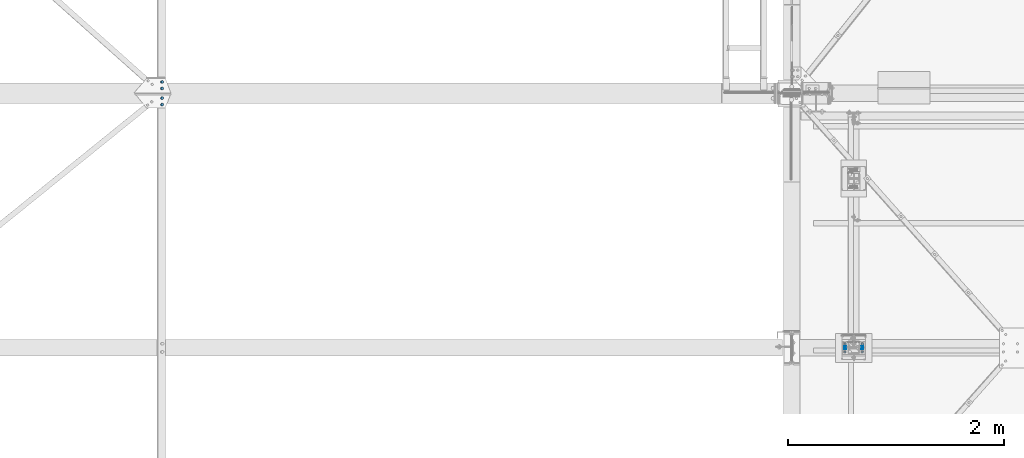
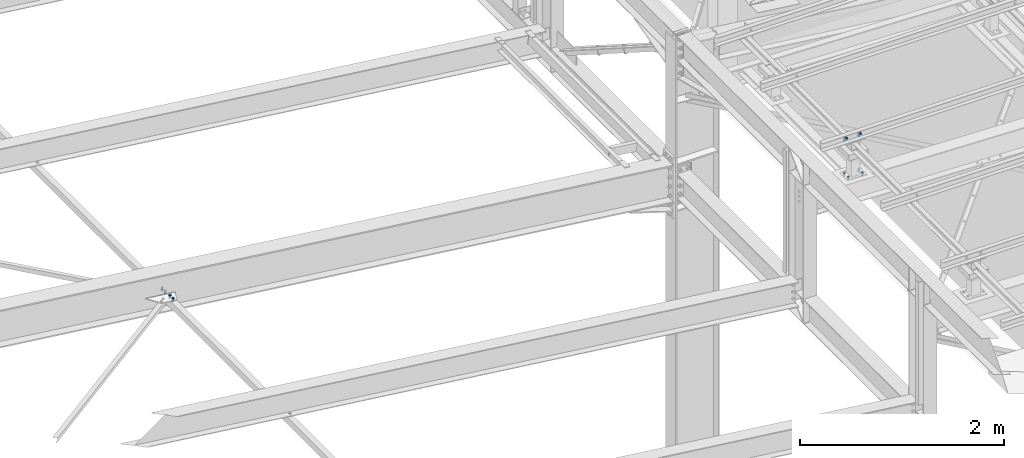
# One storey, part 354 of 3134: 5 mechanical fasteners, 3 elements without a shape of their own.
"""IFC2X3 building model written with IfcOpenShell, lengths in millimetres."""

from ifc_helpers import new_model, si_unit, frame, origin_with_axes, place, context, subcontext, project, spatial, faceted_brep, source, transform, mapped, material, type_object, element, aggregate, save


model = new_model("IFC2X3")

# Units and contexts
model_context = context("Model", 3, precision=1e-05, world=origin_with_axes())
body_context = subcontext(model_context, "Body", "Model", "MODEL_VIEW")
ifc_project = project(units=[si_unit("LENGTHUNIT", "METRE", prefix="MILLI"), si_unit("AREAUNIT", "SQUARE_METRE"), si_unit("VOLUMEUNIT", "CUBIC_METRE"), si_unit("MASSUNIT", "GRAM", prefix="KILO"), si_unit("TIMEUNIT", "SECOND"), si_unit("PLANEANGLEUNIT", "RADIAN"), si_unit("SOLIDANGLEUNIT", "STERADIAN"), si_unit("THERMODYNAMICTEMPERATUREUNIT", "DEGREE_CELSIUS"), si_unit("LUMINOUSINTENSITYUNIT", "LUMEN")], contexts=[model_context])

# Site, building, storey
site_placement = place(None, origin_with_axes())
site = spatial("IfcSite", under=ifc_project, at=site_placement, CompositionType="ELEMENT")
building_placement = place(site_placement, origin_with_axes())
building = spatial("IfcBuilding", under=site, at=building_placement, Name="Undefined", CompositionType="ELEMENT")
storey_placement = place(building_placement, origin_with_axes())
storey = spatial("IfcBuildingStorey", under=building, at=storey_placement, Name="Undefined", CompositionType="ELEMENT", Elevation=0.0)

# Assembly, mechanical fastener
assembly_1_placement = place(storey_placement, origin_with_axes())
assembly_1 = element("IfcElementAssembly", 1, at=assembly_1_placement, inside=storey, AssemblyPlace="NOTDEFINED", PredefinedType="RIGID_FRAME")
ifc_material = material(Name="8.8")
mechanical_fastener_type = type_object("IfcMechanicalFastenerType", Name="Bolt assembly")
shared_shape_1 = source(origin_with_axes(), body_context, "Body", "Brep", [
    faceted_brep([(10.9696551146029, -14.0, 0.0), (5.48482755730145, -14.0, 9.5), (-5.48482755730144, -14.0, 9.5), (-10.9696551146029, -14.0, 1.34339530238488e-15), (-5.48482755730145, -14.0, -9.5), (5.48482755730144, -14.0, -9.50000000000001), (5.48482755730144, -6.0, -9.50000000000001), (-5.48482755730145, -6.0, -9.5), (-10.9696551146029, -6.0, 1.34339530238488e-15), (-5.48482755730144, -6.0, 9.5), (5.48482755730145, -6.0, 9.5), (10.9696551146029, -6.0, 0.0), (6.0, -6.0, 0.0), (5.19615242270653, -6.0, 3.00000000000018), (2.99999999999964, -6.0, 5.19615242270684), (-6.21801588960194e-13, -6.0, 6.0), (-3.00000000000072, -6.0, 5.19615242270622), (-5.19615242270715, -6.0, 2.9999999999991), (-6.0, -6.0, -1.24360317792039e-12), (-5.19615242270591, -6.0, -3.00000000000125), (-2.99999999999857, -6.0, -5.19615242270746), (1.85874342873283e-12, -6.0, -6.0), (3.00000000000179, -6.0, -5.1961524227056), (5.19615242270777, -6.0, -2.99999999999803), (5.19615242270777, 24.0, -2.99999999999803), (3.00000000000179, 24.0, -5.1961524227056), (1.85874342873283e-12, 24.0, -6.0), (-2.99999999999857, 24.0, -5.19615242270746), (-5.19615242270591, 24.0, -3.00000000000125), (-6.0, 24.0, -1.24360317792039e-12), (-5.19615242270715, 24.0, 2.9999999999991), (-3.00000000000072, 24.0, 5.19615242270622), (-6.21801588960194e-13, 24.0, 6.0), (2.99999999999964, 24.0, 5.19615242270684), (5.19615242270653, 24.0, 3.00000000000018), (6.0, 24.0, 0.0), (10.9696551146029, 6.00000000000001, 0.0), (5.48482755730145, 6.00000000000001, 9.5), (-5.48482755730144, 6.00000000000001, 9.5), (-10.9696551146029, 6.00000000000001, 1.34339530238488e-15), (-5.48482755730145, 6.00000000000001, -9.5), (5.48482755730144, 6.00000000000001, -9.50000000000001), (5.48482755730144, 16.0, -9.50000000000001), (-5.48482755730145, 16.0, -9.5), (-10.9696551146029, 16.0, 1.34339530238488e-15), (-5.48482755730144, 16.0, 9.5), (5.48482755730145, 16.0, 9.5), (10.9696551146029, 16.0, 0.0)], [[[0, 1, 2, 3, 4, 5]], [[6, 7, 8, 9, 10, 11]], [[0, 11, 10, 1]], [[1, 10, 9, 2]], [[2, 9, 8, 3]], [[3, 8, 7, 4]], [[4, 7, 6, 5]], [[5, 6, 11, 0]], [[12, 13, 14, 15, 16, 17, 18, 19, 20, 21, 22, 23]], [[24, 25, 26, 27, 28, 29, 30, 31, 32, 33, 34, 35]], [[12, 35, 34, 13]], [[13, 34, 33, 14]], [[14, 33, 32, 15]], [[15, 32, 31, 16]], [[16, 31, 30, 17]], [[17, 30, 29, 18]], [[18, 29, 28, 19]], [[19, 28, 27, 20]], [[20, 27, 26, 21]], [[21, 26, 25, 22]], [[22, 25, 24, 23]], [[23, 24, 35, 12]], [[36, 37, 38, 39, 40, 41]], [[42, 43, 44, 45, 46, 47]], [[36, 47, 46, 37]], [[37, 46, 45, 38]], [[38, 45, 44, 39]], [[39, 44, 43, 40]], [[40, 43, 42, 41]], [[41, 42, 47, 36]]]),
    faceted_brep([(7.0, -0.1, 0.0), (6.06217782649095, -0.1, 3.50000000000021), (3.49999999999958, -0.1, 6.06217782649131), (-7.25435187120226e-13, -0.1, 7.0), (-3.50000000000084, -0.1, 6.06217782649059), (-6.06217782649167, -0.1, 3.49999999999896), (-7.0, -0.1, -1.45087037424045e-12), (-6.06217782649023, -0.1, -3.50000000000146), (-3.49999999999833, -0.1, -6.06217782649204), (2.1685340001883e-12, -0.1, -7.0), (3.50000000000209, -0.1, -6.06217782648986), (6.0621778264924, -0.1, -3.4999999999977), (6.0621778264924, 6.00000000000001, -3.4999999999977), (3.50000000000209, 6.00000000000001, -6.06217782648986), (2.1685340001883e-12, 6.00000000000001, -7.0), (-3.49999999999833, 6.00000000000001, -6.06217782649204), (-6.06217782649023, 6.00000000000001, -3.50000000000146), (-7.0, 6.00000000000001, -1.45087037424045e-12), (-6.06217782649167, 6.00000000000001, 3.49999999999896), (-3.50000000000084, 6.00000000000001, 6.06217782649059), (-7.25435187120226e-13, 6.00000000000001, 7.0), (3.49999999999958, 6.00000000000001, 6.06217782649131), (6.06217782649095, 6.00000000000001, 3.50000000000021), (7.0, 6.00000000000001, 0.0), (7.0, -5.9, 0.0), (6.06217782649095, -5.9, 3.50000000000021), (3.49999999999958, -5.9, 6.06217782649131), (-7.25435187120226e-13, -5.9, 7.0), (-3.50000000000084, -5.9, 6.06217782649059), (-6.06217782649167, -5.9, 3.49999999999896), (-7.0, -5.9, -1.45087037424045e-12), (-6.06217782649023, -5.9, -3.50000000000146), (-3.49999999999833, -5.9, -6.06217782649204), (2.1685340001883e-12, -5.9, -7.0), (3.50000000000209, -5.9, -6.06217782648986), (6.0621778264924, -5.9, -3.4999999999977), (6.0621778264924, 0.0999999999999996, -3.4999999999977), (3.50000000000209, 0.0999999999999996, -6.06217782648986), (2.1685340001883e-12, 0.0999999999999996, -7.0), (-3.49999999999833, 0.0999999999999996, -6.06217782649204), (-6.06217782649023, 0.0999999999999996, -3.50000000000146), (-7.0, 0.0999999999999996, -1.45087037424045e-12), (-6.06217782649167, 0.0999999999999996, 3.49999999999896), (-3.50000000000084, 0.0999999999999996, 6.06217782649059), (-7.25435187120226e-13, 0.0999999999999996, 7.0), (3.49999999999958, 0.0999999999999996, 6.06217782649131), (6.06217782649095, 0.0999999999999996, 3.50000000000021), (7.0, 0.0999999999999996, 0.0)], [[[0, 1, 2, 3, 4, 5, 6, 7, 8, 9, 10, 11]], [[12, 13, 14, 15, 16, 17, 18, 19, 20, 21, 22, 23]], [[0, 23, 22, 1]], [[1, 22, 21, 2]], [[2, 21, 20, 3]], [[3, 20, 19, 4]], [[4, 19, 18, 5]], [[5, 18, 17, 6]], [[6, 17, 16, 7]], [[7, 16, 15, 8]], [[8, 15, 14, 9]], [[9, 14, 13, 10]], [[10, 13, 12, 11]], [[11, 12, 23, 0]], [[24, 25, 26, 27, 28, 29, 30, 31, 32, 33, 34, 35]], [[36, 37, 38, 39, 40, 41, 42, 43, 44, 45, 46, 47]], [[24, 47, 46, 25]], [[25, 46, 45, 26]], [[26, 45, 44, 27]], [[27, 44, 43, 28]], [[28, 43, 42, 29]], [[29, 42, 41, 30]], [[30, 41, 40, 31]], [[31, 40, 39, 32]], [[32, 39, 38, 33]], [[33, 38, 37, 34]], [[34, 37, 36, 35]], [[35, 36, 47, 24]]]),
])
mechanical_fastener_1_placement = place(assembly_1_placement, frame((68125.0, 17125.0, 5850.0), z_axis=(1.0, 0.0, 0.0), x_axis=(0.0, -1.0, 0.0)))
mechanical_fastener_1 = element("IfcMechanicalFastener", 2, at=mechanical_fastener_1_placement, type_object=mechanical_fastener_type, material=ifc_material, Name="Bolt assembly", NominalDiameter=12.0, NominalLength=30.0, context=body_context, shape_type="MappedRepresentation", body=[
    mapped(shared_shape_1, transform((0.0, -5.32963895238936e-10, -79.9999999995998))),
    mapped(shared_shape_1, transform((0.0, 5.3114490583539e-10, 79.9999999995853))),
])

# Assembly, mechanical fasteners
assembly_2_placement = place(storey_placement, origin_with_axes())
assembly_2 = element("IfcElementAssembly", 3, at=assembly_2_placement, inside=storey, Name="IPE450", AssemblyPlace="NOTDEFINED", PredefinedType="RIGID_FRAME")
shared_shape_2 = source(origin_with_axes(), body_context, "Body", "Brep", [
    faceted_brep([(13.856406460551, -10.0, 0.0), (6.92820323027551, -10.0, 12.0), (-6.92820323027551, -10.0, 12.0), (-13.856406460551, -10.0, 1.69692038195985e-15), (-6.92820323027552, -10.0, -12.0), (6.9282032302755, -10.0, -12.0), (6.9282032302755, 0.0, -12.0), (-6.92820323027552, 0.0, -12.0), (-13.856406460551, 0.0, 1.69692038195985e-15), (-6.92820323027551, 0.0, 12.0), (6.92820323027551, 0.0, 12.0), (13.856406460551, 0.0, 0.0), (8.0, 0.0, 0.0), (6.92820323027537, 0.0, 4.00000000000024), (3.99999999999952, 0.0, 6.92820323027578), (-8.29068785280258e-13, 0.0, 8.0), (-4.00000000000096, 0.0, 6.92820323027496), (-6.9282032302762, 0.0, 3.99999999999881), (-8.0, 0.0, -1.65813757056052e-12), (-6.92820323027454, 0.0, -4.00000000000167), (-3.99999999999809, 0.0, -6.92820323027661), (2.47832457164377e-12, 0.0, -8.0), (4.00000000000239, 0.0, -6.92820323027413), (6.92820323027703, 0.0, -3.99999999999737), (6.92820323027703, 35.0000000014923, -3.99999999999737), (4.00000000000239, 35.0000000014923, -6.92820323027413), (2.47832457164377e-12, 35.0000000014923, -8.0), (-3.99999999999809, 35.0000000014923, -6.92820323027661), (-6.92820323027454, 35.0000000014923, -4.00000000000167), (-8.0, 35.0000000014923, -1.65813757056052e-12), (-6.9282032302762, 35.0000000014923, 3.99999999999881), (-4.00000000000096, 35.0000000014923, 6.92820323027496), (-8.29068785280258e-13, 35.0000000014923, 8.0), (3.99999999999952, 35.0000000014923, 6.92820323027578), (6.92820323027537, 35.0000000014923, 4.00000000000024), (8.0, 35.0000000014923, 0.0), (13.856406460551, 14.9999995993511, 0.0), (6.92820323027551, 14.9999995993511, 12.0), (-6.92820323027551, 14.9999995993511, 12.0), (-13.856406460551, 14.9999995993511, 1.69692038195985e-15), (-6.92820323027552, 14.9999995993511, -12.0), (6.9282032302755, 14.9999995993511, -12.0), (6.9282032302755, 27.9999995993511, -12.0), (-6.92820323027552, 27.9999995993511, -12.0), (-13.856406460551, 27.9999995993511, 1.69692038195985e-15), (-6.92820323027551, 27.9999995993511, 12.0), (6.92820323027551, 27.9999995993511, 12.0), (13.856406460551, 27.9999995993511, 0.0)], [[[0, 1, 2, 3, 4, 5]], [[6, 7, 8, 9, 10, 11]], [[0, 11, 10, 1]], [[1, 10, 9, 2]], [[2, 9, 8, 3]], [[3, 8, 7, 4]], [[4, 7, 6, 5]], [[5, 6, 11, 0]], [[12, 13, 14, 15, 16, 17, 18, 19, 20, 21, 22, 23]], [[24, 25, 26, 27, 28, 29, 30, 31, 32, 33, 34, 35]], [[12, 35, 34, 13]], [[13, 34, 33, 14]], [[14, 33, 32, 15]], [[15, 32, 31, 16]], [[16, 31, 30, 17]], [[17, 30, 29, 18]], [[18, 29, 28, 19]], [[19, 28, 27, 20]], [[20, 27, 26, 21]], [[21, 26, 25, 22]], [[22, 25, 24, 23]], [[23, 24, 35, 12]], [[36, 37, 38, 39, 40, 41]], [[42, 43, 44, 45, 46, 47]], [[36, 47, 46, 37]], [[37, 46, 45, 38]], [[38, 45, 44, 39]], [[39, 44, 43, 40]], [[40, 43, 42, 41]], [[41, 42, 47, 36]]]),
    faceted_brep([(9.0, 7.9, 0.0), (7.79422863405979, 7.9, 4.50000000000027), (4.49999999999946, 7.9, 7.79422863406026), (-9.3270238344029e-13, 7.9, 9.0), (-4.50000000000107, 7.9, 7.79422863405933), (-7.79422863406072, 7.9, 4.49999999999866), (-9.0, 7.9, -1.86540476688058e-12), (-7.79422863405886, 7.9, -4.50000000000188), (-4.49999999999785, 7.9, -7.79422863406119), (2.78811514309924e-12, 7.9, -9.0), (4.50000000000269, 7.9, -7.7942286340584), (7.79422863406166, 7.9, -4.49999999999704), (7.79422863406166, 14.9999995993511, -4.49999999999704), (4.50000000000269, 14.9999995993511, -7.7942286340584), (2.78811514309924e-12, 14.9999995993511, -9.0), (-4.49999999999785, 14.9999995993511, -7.79422863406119), (-7.79422863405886, 14.9999995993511, -4.50000000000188), (-9.0, 14.9999995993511, -1.86540476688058e-12), (-7.79422863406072, 14.9999995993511, 4.49999999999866), (-4.50000000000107, 14.9999995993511, 7.79422863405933), (-9.3270238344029e-13, 14.9999995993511, 9.0), (4.49999999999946, 14.9999995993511, 7.79422863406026), (7.79422863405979, 14.9999995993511, 4.50000000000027), (9.0, 14.9999995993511, 0.0), (9.0, 0.100000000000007, 0.0), (7.79422863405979, 0.100000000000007, 4.50000000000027), (4.49999999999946, 0.100000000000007, 7.79422863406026), (-9.3270238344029e-13, 0.100000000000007, 9.0), (-4.50000000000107, 0.100000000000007, 7.79422863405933), (-7.79422863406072, 0.100000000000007, 4.49999999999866), (-9.0, 0.100000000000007, -1.86540476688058e-12), (-7.79422863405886, 0.100000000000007, -4.50000000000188), (-4.49999999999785, 0.100000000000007, -7.79422863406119), (2.78811514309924e-12, 0.100000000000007, -9.0), (4.50000000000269, 0.100000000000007, -7.7942286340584), (7.79422863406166, 0.100000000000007, -4.49999999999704), (7.79422863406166, 8.1, -4.49999999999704), (4.50000000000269, 8.1, -7.7942286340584), (2.78811514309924e-12, 8.1, -9.0), (-4.49999999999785, 8.1, -7.79422863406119), (-7.79422863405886, 8.1, -4.50000000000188), (-9.0, 8.1, -1.86540476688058e-12), (-7.79422863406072, 8.1, 4.49999999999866), (-4.50000000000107, 8.1, 7.79422863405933), (-9.3270238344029e-13, 8.1, 9.0), (4.49999999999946, 8.1, 7.79422863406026), (7.79422863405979, 8.1, 4.50000000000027), (9.0, 8.1, 0.0)], [[[0, 1, 2, 3, 4, 5, 6, 7, 8, 9, 10, 11]], [[12, 13, 14, 15, 16, 17, 18, 19, 20, 21, 22, 23]], [[0, 23, 22, 1]], [[1, 22, 21, 2]], [[2, 21, 20, 3]], [[3, 20, 19, 4]], [[4, 19, 18, 5]], [[5, 18, 17, 6]], [[6, 17, 16, 7]], [[7, 16, 15, 8]], [[8, 15, 14, 9]], [[9, 14, 13, 10]], [[10, 13, 12, 11]], [[11, 12, 23, 0]], [[24, 25, 26, 27, 28, 29, 30, 31, 32, 33, 34, 35]], [[36, 37, 38, 39, 40, 41, 42, 43, 44, 45, 46, 47]], [[24, 47, 46, 25]], [[25, 46, 45, 26]], [[26, 45, 44, 27]], [[27, 44, 43, 28]], [[28, 43, 42, 29]], [[29, 42, 41, 30]], [[30, 41, 40, 31]], [[31, 40, 39, 32]], [[32, 39, 38, 33]], [[33, 38, 37, 34]], [[34, 37, 36, 35]], [[35, 36, 47, 24]]]),
])
mechanical_fastener_2_placement = place(assembly_2_placement, frame((61712.9849611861, 19495.0, 4806.73358922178), z_axis=(-0.992623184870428, 0.0, 0.121240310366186), x_axis=(0.0, 1.0, 0.0)))
mechanical_fastener_2 = element("IfcMechanicalFastener", 4, at=mechanical_fastener_2_placement, type_object=mechanical_fastener_type, material=ifc_material, Name="Bolt assembly", NominalDiameter=16.0, NominalLength=35.0, context=body_context, shape_type="MappedRepresentation", body=[
    mapped(shared_shape_2, transform((0.0, 0.0, 0.0))),
    mapped(shared_shape_2, transform((59.9999999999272, 0.0, 5.40239852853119e-10))),
])
mechanical_fastener_3_placement = place(assembly_2_placement, frame((61712.9849611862, 19405.0, 4806.73358922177), z_axis=(0.992623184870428, 0.0, -0.121240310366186), x_axis=(0.0, -1.0, 0.0)))
mechanical_fastener_3 = element("IfcMechanicalFastener", 5, at=mechanical_fastener_3_placement, type_object=mechanical_fastener_type, material=ifc_material, Name="Bolt assembly", NominalDiameter=16.0, NominalLength=35.0, context=body_context, shape_type="MappedRepresentation", body=[
    mapped(shared_shape_2, transform((0.0, 0.0, 0.0))),
    mapped(shared_shape_2, transform((59.9999999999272, 0.0, 5.40239852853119e-10))),
])
aggregate(assembly_2, [mechanical_fastener_2, mechanical_fastener_3])

# Mechanical fastener
shared_shape_3 = source(origin_with_axes(), body_context, "Body", "Brep", [
    faceted_brep([(10.9696551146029, -12.0, 0.0), (5.48482755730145, -12.0, 9.5), (-5.48482755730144, -12.0, 9.5), (-10.9696551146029, -12.0, 1.34339530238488e-15), (-5.48482755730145, -12.0, -9.5), (5.48482755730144, -12.0, -9.50000000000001), (5.48482755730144, -4.0, -9.50000000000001), (-5.48482755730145, -4.0, -9.5), (-10.9696551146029, -4.0, 1.34339530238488e-15), (-5.48482755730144, -4.0, 9.5), (5.48482755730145, -4.0, 9.5), (10.9696551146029, -4.0, 0.0), (6.0, -4.0, 0.0), (5.19615242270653, -4.0, 3.00000000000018), (2.99999999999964, -4.0, 5.19615242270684), (-6.21801588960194e-13, -4.0, 6.0), (-3.00000000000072, -4.0, 5.19615242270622), (-5.19615242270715, -4.0, 2.9999999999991), (-6.0, -4.0, -1.24360317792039e-12), (-5.19615242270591, -4.0, -3.00000000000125), (-2.99999999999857, -4.0, -5.19615242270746), (1.85874342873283e-12, -4.0, -6.0), (3.00000000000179, -4.0, -5.1961524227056), (5.19615242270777, -4.0, -2.99999999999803), (5.19615242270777, 21.0, -2.99999999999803), (3.00000000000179, 21.0, -5.1961524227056), (1.85874342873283e-12, 21.0, -6.0), (-2.99999999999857, 21.0, -5.19615242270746), (-5.19615242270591, 21.0, -3.00000000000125), (-6.0, 21.0, -1.24360317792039e-12), (-5.19615242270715, 21.0, 2.9999999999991), (-3.00000000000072, 21.0, 5.19615242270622), (-6.21801588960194e-13, 21.0, 6.0), (2.99999999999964, 21.0, 5.19615242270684), (5.19615242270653, 21.0, 3.00000000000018), (6.0, 21.0, 0.0), (10.9696551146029, 6.00000000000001, 0.0), (5.48482755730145, 6.00000000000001, 9.5), (-5.48482755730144, 6.00000000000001, 9.5), (-10.9696551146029, 6.00000000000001, 1.34339530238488e-15), (-5.48482755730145, 6.00000000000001, -9.5), (5.48482755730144, 6.00000000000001, -9.50000000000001), (5.48482755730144, 16.0, -9.50000000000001), (-5.48482755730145, 16.0, -9.5), (-10.9696551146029, 16.0, 1.34339530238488e-15), (-5.48482755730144, 16.0, 9.5), (5.48482755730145, 16.0, 9.5), (10.9696551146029, 16.0, 0.0)], [[[0, 1, 2, 3, 4, 5]], [[6, 7, 8, 9, 10, 11]], [[0, 11, 10, 1]], [[1, 10, 9, 2]], [[2, 9, 8, 3]], [[3, 8, 7, 4]], [[4, 7, 6, 5]], [[5, 6, 11, 0]], [[12, 13, 14, 15, 16, 17, 18, 19, 20, 21, 22, 23]], [[24, 25, 26, 27, 28, 29, 30, 31, 32, 33, 34, 35]], [[12, 35, 34, 13]], [[13, 34, 33, 14]], [[14, 33, 32, 15]], [[15, 32, 31, 16]], [[16, 31, 30, 17]], [[17, 30, 29, 18]], [[18, 29, 28, 19]], [[19, 28, 27, 20]], [[20, 27, 26, 21]], [[21, 26, 25, 22]], [[22, 25, 24, 23]], [[23, 24, 35, 12]], [[36, 37, 38, 39, 40, 41]], [[42, 43, 44, 45, 46, 47]], [[36, 47, 46, 37]], [[37, 46, 45, 38]], [[38, 45, 44, 39]], [[39, 44, 43, 40]], [[40, 43, 42, 41]], [[41, 42, 47, 36]]]),
    faceted_brep([(7.0, -3.9, 0.0), (6.06217782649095, -3.9, 3.50000000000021), (3.49999999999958, -3.9, 6.06217782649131), (-7.25435187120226e-13, -3.9, 7.0), (-3.50000000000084, -3.9, 6.06217782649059), (-6.06217782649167, -3.9, 3.49999999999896), (-7.0, -3.9, -1.45087037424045e-12), (-6.06217782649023, -3.9, -3.50000000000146), (-3.49999999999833, -3.9, -6.06217782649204), (2.1685340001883e-12, -3.9, -7.0), (3.50000000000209, -3.9, -6.06217782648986), (6.0621778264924, -3.9, -3.4999999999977), (6.0621778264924, 0.0999999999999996, -3.4999999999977), (3.50000000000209, 0.0999999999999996, -6.06217782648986), (2.1685340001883e-12, 0.0999999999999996, -7.0), (-3.49999999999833, 0.0999999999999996, -6.06217782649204), (-6.06217782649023, 0.0999999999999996, -3.50000000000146), (-7.0, 0.0999999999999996, -1.45087037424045e-12), (-6.06217782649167, 0.0999999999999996, 3.49999999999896), (-3.50000000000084, 0.0999999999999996, 6.06217782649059), (-7.25435187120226e-13, 0.0999999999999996, 7.0), (3.49999999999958, 0.0999999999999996, 6.06217782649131), (6.06217782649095, 0.0999999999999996, 3.50000000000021), (7.0, 0.0999999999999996, 0.0), (7.0, -0.1, 0.0), (6.06217782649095, -0.1, 3.50000000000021), (3.49999999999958, -0.1, 6.06217782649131), (-7.25435187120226e-13, -0.1, 7.0), (-3.50000000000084, -0.1, 6.06217782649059), (-6.06217782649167, -0.1, 3.49999999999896), (-7.0, -0.1, -1.45087037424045e-12), (-6.06217782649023, -0.1, -3.50000000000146), (-3.49999999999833, -0.1, -6.06217782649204), (2.1685340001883e-12, -0.1, -7.0), (3.50000000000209, -0.1, -6.06217782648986), (6.0621778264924, -0.1, -3.4999999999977), (6.0621778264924, 6.00000000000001, -3.4999999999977), (3.50000000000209, 6.00000000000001, -6.06217782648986), (2.1685340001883e-12, 6.00000000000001, -7.0), (-3.49999999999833, 6.00000000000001, -6.06217782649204), (-6.06217782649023, 6.00000000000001, -3.50000000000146), (-7.0, 6.00000000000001, -1.45087037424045e-12), (-6.06217782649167, 6.00000000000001, 3.49999999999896), (-3.50000000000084, 6.00000000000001, 6.06217782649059), (-7.25435187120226e-13, 6.00000000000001, 7.0), (3.49999999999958, 6.00000000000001, 6.06217782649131), (6.06217782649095, 6.00000000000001, 3.50000000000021), (7.0, 6.00000000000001, 0.0)], [[[0, 1, 2, 3, 4, 5, 6, 7, 8, 9, 10, 11]], [[12, 13, 14, 15, 16, 17, 18, 19, 20, 21, 22, 23]], [[0, 23, 22, 1]], [[1, 22, 21, 2]], [[2, 21, 20, 3]], [[3, 20, 19, 4]], [[4, 19, 18, 5]], [[5, 18, 17, 6]], [[6, 17, 16, 7]], [[7, 16, 15, 8]], [[8, 15, 14, 9]], [[9, 14, 13, 10]], [[10, 13, 12, 11]], [[11, 12, 23, 0]], [[24, 25, 26, 27, 28, 29, 30, 31, 32, 33, 34, 35]], [[36, 37, 38, 39, 40, 41, 42, 43, 44, 45, 46, 47]], [[24, 47, 46, 25]], [[25, 46, 45, 26]], [[26, 45, 44, 27]], [[27, 44, 43, 28]], [[28, 43, 42, 29]], [[29, 42, 41, 30]], [[30, 41, 40, 31]], [[31, 40, 39, 32]], [[32, 39, 38, 33]], [[33, 38, 37, 34]], [[34, 37, 36, 35]], [[35, 36, 47, 24]]]),
])
mechanical_fastener_4_placement = place(assembly_1_placement, frame((68125.0, 17090.0, 5885.0), z_axis=(1.0, 0.0, 0.0), x_axis=(0.0, 0.0, -1.0)))
mechanical_fastener_4 = element("IfcMechanicalFastener", 6, at=mechanical_fastener_4_placement, type_object=mechanical_fastener_type, material=ifc_material, Name="Bolt assembly", NominalDiameter=12.0, NominalLength=25.0, context=body_context, shape_type="MappedRepresentation", body=[
    mapped(shared_shape_3, transform((0.0, -5.32963895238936e-10, -79.9999999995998))),
    mapped(shared_shape_3, transform((0.0, 5.3114490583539e-10, 79.9999999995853))),
])

aggregate(assembly_1, [mechanical_fastener_4, mechanical_fastener_1])

# Assembly, mechanical fastener
assembly_3_placement = place(storey_placement, origin_with_axes())
assembly_3 = element("IfcElementAssembly", 7, at=assembly_3_placement, inside=storey, Name="300", AssemblyPlace="NOTDEFINED", PredefinedType="RIGID_FRAME")
shared_shape_4 = source(origin_with_axes(), body_context, "Body", "Brep", [
    faceted_brep([(10.9696551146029, -10.2005960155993, 0.0), (5.48482755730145, -10.2005960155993, 9.5), (-5.48482755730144, -10.2005960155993, 9.5), (-10.9696551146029, -10.2005960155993, 1.34339530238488e-15), (-5.48482755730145, -10.2005960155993, -9.5), (5.48482755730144, -10.2005960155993, -9.50000000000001), (5.48482755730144, -2.20059601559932, -9.50000000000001), (-5.48482755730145, -2.20059601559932, -9.5), (-10.9696551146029, -2.20059601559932, 1.34339530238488e-15), (-5.48482755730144, -2.20059601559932, 9.5), (5.48482755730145, -2.20059601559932, 9.5), (10.9696551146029, -2.20059601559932, 0.0), (6.0, -2.20059601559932, 0.0), (5.19615242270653, -2.20059601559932, 3.00000000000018), (2.99999999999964, -2.20059601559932, 5.19615242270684), (-6.21801588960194e-13, -2.20059601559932, 6.0), (-3.00000000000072, -2.20059601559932, 5.19615242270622), (-5.19615242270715, -2.20059601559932, 2.9999999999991), (-6.0, -2.20059601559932, -1.24360317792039e-12), (-5.19615242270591, -2.20059601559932, -3.00000000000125), (-2.99999999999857, -2.20059601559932, -5.19615242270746), (1.85874342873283e-12, -2.20059601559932, -6.0), (3.00000000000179, -2.20059601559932, -5.1961524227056), (5.19615242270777, -2.20059601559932, -2.99999999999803), (5.19615242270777, 32.7994039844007, -2.99999999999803), (3.00000000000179, 32.7994039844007, -5.1961524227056), (1.85874342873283e-12, 32.7994039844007, -6.0), (-2.99999999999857, 32.7994039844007, -5.19615242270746), (-5.19615242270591, 32.7994039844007, -3.00000000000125), (-6.0, 32.7994039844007, -1.24360317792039e-12), (-5.19615242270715, 32.7994039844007, 2.9999999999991), (-3.00000000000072, 32.7994039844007, 5.19615242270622), (-6.21801588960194e-13, 32.7994039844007, 6.0), (2.99999999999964, 32.7994039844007, 5.19615242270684), (5.19615242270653, 32.7994039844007, 3.00000000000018), (6.0, 32.7994039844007, 0.0), (10.9696551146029, 17.0008987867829, 0.0), (5.48482755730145, 17.0008987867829, 9.5), (-5.48482755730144, 17.0008987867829, 9.5), (-10.9696551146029, 17.0008987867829, 1.34339530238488e-15), (-5.48482755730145, 17.0008987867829, -9.5), (5.48482755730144, 17.0008987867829, -9.50000000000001), (5.48482755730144, 27.0008987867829, -9.50000000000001), (-5.48482755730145, 27.0008987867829, -9.5), (-10.9696551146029, 27.0008987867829, 1.34339530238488e-15), (-5.48482755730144, 27.0008987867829, 9.5), (5.48482755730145, 27.0008987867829, 9.5), (10.9696551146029, 27.0008987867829, 0.0)], [[[0, 1, 2, 3, 4, 5]], [[6, 7, 8, 9, 10, 11]], [[0, 11, 10, 1]], [[1, 10, 9, 2]], [[2, 9, 8, 3]], [[3, 8, 7, 4]], [[4, 7, 6, 5]], [[5, 6, 11, 0]], [[12, 13, 14, 15, 16, 17, 18, 19, 20, 21, 22, 23]], [[24, 25, 26, 27, 28, 29, 30, 31, 32, 33, 34, 35]], [[12, 35, 34, 13]], [[13, 34, 33, 14]], [[14, 33, 32, 15]], [[15, 32, 31, 16]], [[16, 31, 30, 17]], [[17, 30, 29, 18]], [[18, 29, 28, 19]], [[19, 28, 27, 20]], [[20, 27, 26, 21]], [[21, 26, 25, 22]], [[22, 25, 24, 23]], [[23, 24, 35, 12]], [[36, 37, 38, 39, 40, 41]], [[42, 43, 44, 45, 46, 47]], [[36, 47, 46, 37]], [[37, 46, 45, 38]], [[38, 45, 44, 39]], [[39, 44, 43, 40]], [[40, 43, 42, 41]], [[41, 42, 47, 36]]]),
    faceted_brep([(7.0, 8.90089878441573, 0.0), (6.06217782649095, 8.90089878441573, 3.50000000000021), (3.49999999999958, 8.90089878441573, 6.06217782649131), (-7.25435187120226e-13, 8.90089878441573, 7.0), (-3.50000000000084, 8.90089878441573, 6.06217782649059), (-6.06217782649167, 8.90089878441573, 3.49999999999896), (-7.0, 8.90089878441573, -1.45087037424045e-12), (-6.06217782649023, 8.90089878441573, -3.50000000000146), (-3.49999999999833, 8.90089878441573, -6.06217782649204), (2.1685340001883e-12, 8.90089878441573, -7.0), (3.50000000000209, 8.90089878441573, -6.06217782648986), (6.0621778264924, 8.90089878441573, -3.4999999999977), (6.0621778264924, 17.0008987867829, -3.4999999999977), (3.50000000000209, 17.0008987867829, -6.06217782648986), (2.1685340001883e-12, 17.0008987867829, -7.0), (-3.49999999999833, 17.0008987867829, -6.06217782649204), (-6.06217782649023, 17.0008987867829, -3.50000000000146), (-7.0, 17.0008987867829, -1.45087037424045e-12), (-6.06217782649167, 17.0008987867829, 3.49999999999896), (-3.50000000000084, 17.0008987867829, 6.06217782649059), (-7.25435187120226e-13, 17.0008987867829, 7.0), (3.49999999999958, 17.0008987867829, 6.06217782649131), (6.06217782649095, 17.0008987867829, 3.50000000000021), (7.0, 17.0008987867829, 0.0), (7.0, -2.10059601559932, 0.0), (6.06217782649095, -2.10059601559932, 3.50000000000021), (3.49999999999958, -2.10059601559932, 6.06217782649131), (-7.25435187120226e-13, -2.10059601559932, 7.0), (-3.50000000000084, -2.10059601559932, 6.06217782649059), (-6.06217782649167, -2.10059601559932, 3.49999999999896), (-7.0, -2.10059601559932, -1.45087037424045e-12), (-6.06217782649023, -2.10059601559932, -3.50000000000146), (-3.49999999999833, -2.10059601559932, -6.06217782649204), (2.1685340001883e-12, -2.10059601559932, -7.0), (3.50000000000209, -2.10059601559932, -6.06217782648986), (6.0621778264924, -2.10059601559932, -3.4999999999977), (6.0621778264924, 7.09940379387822, -3.4999999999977), (3.50000000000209, 7.09940379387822, -6.06217782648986), (2.1685340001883e-12, 7.09940379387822, -7.0), (-3.49999999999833, 7.09940379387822, -6.06217782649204), (-6.06217782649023, 7.09940379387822, -3.50000000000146), (-7.0, 7.09940379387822, -1.45087037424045e-12), (-6.06217782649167, 7.09940379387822, 3.49999999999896), (-3.50000000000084, 7.09940379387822, 6.06217782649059), (-7.25435187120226e-13, 7.09940379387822, 7.0), (3.49999999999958, 7.09940379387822, 6.06217782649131), (6.06217782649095, 7.09940379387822, 3.50000000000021), (7.0, 7.09940379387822, 0.0)], [[[0, 1, 2, 3, 4, 5, 6, 7, 8, 9, 10, 11]], [[12, 13, 14, 15, 16, 17, 18, 19, 20, 21, 22, 23]], [[0, 23, 22, 1]], [[1, 22, 21, 2]], [[2, 21, 20, 3]], [[3, 20, 19, 4]], [[4, 19, 18, 5]], [[5, 18, 17, 6]], [[6, 17, 16, 7]], [[7, 16, 15, 8]], [[8, 15, 14, 9]], [[9, 14, 13, 10]], [[10, 13, 12, 11]], [[11, 12, 23, 0]], [[24, 25, 26, 27, 28, 29, 30, 31, 32, 33, 34, 35]], [[36, 37, 38, 39, 40, 41, 42, 43, 44, 45, 46, 47]], [[24, 47, 46, 25]], [[25, 46, 45, 26]], [[26, 45, 44, 27]], [[27, 44, 43, 28]], [[28, 43, 42, 29]], [[29, 42, 41, 30]], [[30, 41, 40, 31]], [[31, 40, 39, 32]], [[32, 39, 38, 33]], [[33, 38, 37, 34]], [[34, 37, 36, 35]], [[35, 36, 47, 24]]]),
])
mechanical_fastener_5_placement = place(assembly_3_placement, frame((68124.5351187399, 17128.0, 5415.1872055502), z_axis=(-0.99951962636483, 0.0, 0.0309922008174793), x_axis=(0.0, -1.0, 0.0)))
mechanical_fastener_5 = element("IfcMechanicalFastener", 8, at=mechanical_fastener_5_placement, type_object=mechanical_fastener_type, material=ifc_material, Name="Bolt assembly", NominalDiameter=12.0, NominalLength=35.0, context=body_context, shape_type="MappedRepresentation", body=[
    mapped(shared_shape_4, transform((0.0, -5.32963895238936e-10, -79.9999999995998))),
    mapped(shared_shape_4, transform((76.0, -5.32963895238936e-10, -79.9999999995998))),
    mapped(shared_shape_4, transform((0.0, 5.3114490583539e-10, 79.9999999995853))),
    mapped(shared_shape_4, transform((76.0, 5.3114490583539e-10, 79.9999999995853))),
])
aggregate(assembly_3, [mechanical_fastener_5])

save(model, "model.ifc")
